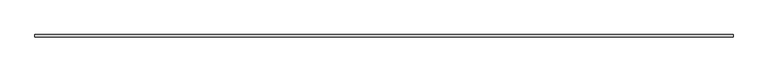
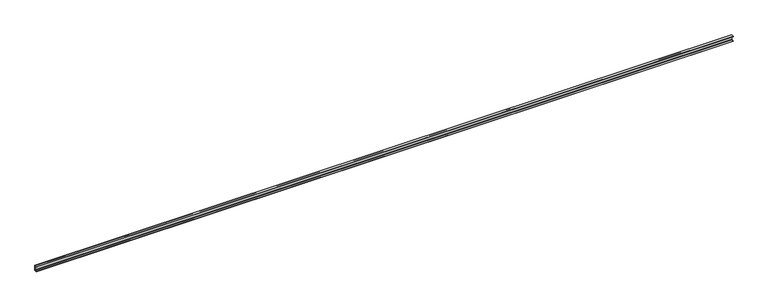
"""IFC4 building model written with IfcOpenShell, lengths in millimetres: beam geometry,  63797 :  63797."""

from ifc_helpers import new_model, si_unit, frame, origin, place, context, project, spatial, polyline, outline, extrude, source, transform, mapped, element, save


def beam_bd8bb5d3(model_context):
    return source(origin(), model_context, "Body", "SweptSolid", [
        extrude(outline(polyline([(-23656.0, 8110.0), (-23656.0, 7990.0), (-23711.0, 7990.0), (-23711.0, 7996.8), (-23672.0, 7999.92), (-23663.0, 8009.64), (-23663.0, 8090.36), (-23672.0, 8100.08), (-23711.0, 8103.2), (-23711.0, 8110.0), (-23656.0, 8110.0)])), frame((-180.0000001, 0.0, 0.0), z_axis=(1.0, 0.0, 0.0), x_axis=(0.0, 1.0, 0.0)), (0.0, 0.0, 1.0), 15570.0),
    ])


if __name__ == "__main__":
    model = new_model("IFC4")
    model_context = context("Model", 3, world=origin())
    ifc_project = project(units=[si_unit("LENGTHUNIT", "METRE", prefix="MILLI")], contexts=[model_context])
    site = spatial("IfcSite", under=ifc_project)
    building = spatial("IfcBuilding", under=site)
    placement = place(None, origin())
    beam_shape = beam_bd8bb5d3(model_context)
    element("IfcBeam", 1, ObjectType=" 63797 :  63797", at=placement, inside=building, context=model_context, shape_type="MappedRepresentation", body=[
        mapped(beam_shape, transform((0.0, 0.0, 0.0), x_axis=(1.0, 0.0, 0.0), y_axis=(0.0, 1.0, 0.0), z_axis=(0.0, 0.0, 1.0))),
    ])
    save(model, "model.ifc")
